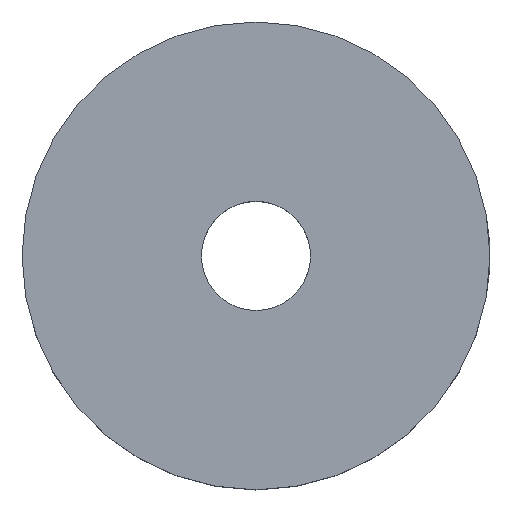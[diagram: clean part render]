
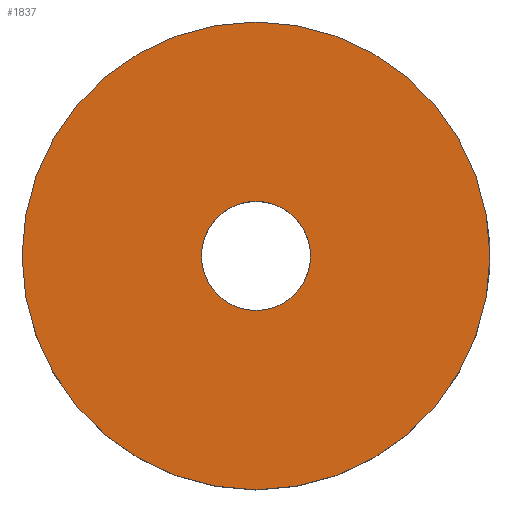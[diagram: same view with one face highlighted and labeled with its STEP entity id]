
A CAD part, top view. The second image highlights one B-rep face of the part: STEP entity #1837.
In plain terms, the highlighted planar face has unit normal (0, 0, 1).
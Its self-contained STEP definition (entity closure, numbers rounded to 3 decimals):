
#24 = VERTEX_POINT('',#25);
#25 = CARTESIAN_POINT('',(85.5,-116.913,90.));
#32 = CYLINDRICAL_SURFACE('',#33,18.);
#33 = AXIS2_PLACEMENT_3D('',#34,#35,#36);
#34 = CARTESIAN_POINT('',(67.5,-116.913,82.));
#35 = DIRECTION('',(0.,0.,1.));
#36 = DIRECTION('',(1.,0.,-0.));
#51 = EDGE_CURVE('',#24,#24,#52,.T.);
#52 = SURFACE_CURVE('',#53,(#58,#65),.PCURVE_S1.);
#53 = CIRCLE('',#54,18.);
#54 = AXIS2_PLACEMENT_3D('',#55,#56,#57);
#55 = CARTESIAN_POINT('',(67.5,-116.913,90.));
#56 = DIRECTION('',(0.,0.,1.));
#57 = DIRECTION('',(1.,0.,-0.));
#58 = PCURVE('',#32,#59);
#59 = DEFINITIONAL_REPRESENTATION('',(#60),#64);
#60 = LINE('',#61,#62);
#61 = CARTESIAN_POINT('',(0.,8.));
#62 = VECTOR('',#63,1.);
#63 = DIRECTION('',(1.,0.));
#64 = ( GEOMETRIC_REPRESENTATION_CONTEXT(2) 
PARAMETRIC_REPRESENTATION_CONTEXT() REPRESENTATION_CONTEXT('2D SPACE',''
  ) );
#65 = PCURVE('',#66,#71);
#66 = PLANE('',#67);
#67 = AXIS2_PLACEMENT_3D('',#68,#69,#70);
#68 = CARTESIAN_POINT('',(67.5,-116.913,90.));
#69 = DIRECTION('',(0.,0.,1.));
#70 = DIRECTION('',(1.,0.,-0.));
#71 = DEFINITIONAL_REPRESENTATION('',(#72),#76);
#72 = CIRCLE('',#73,18.);
#73 = AXIS2_PLACEMENT_2D('',#74,#75);
#74 = CARTESIAN_POINT('',(0.,0.));
#75 = DIRECTION('',(1.,0.));
#76 = ( GEOMETRIC_REPRESENTATION_CONTEXT(2) 
PARAMETRIC_REPRESENTATION_CONTEXT() REPRESENTATION_CONTEXT('2D SPACE',''
  ) );
#609 = CYLINDRICAL_SURFACE('',#610,4.2);
#610 = AXIS2_PLACEMENT_3D('',#611,#612,#613);
#611 = CARTESIAN_POINT('',(67.5,-116.913,81.));
#612 = DIRECTION('',(0.,0.,1.));
#613 = DIRECTION('',(1.,0.,-0.));
#1837 = ADVANCED_FACE('',(#1838,#1841),#66,.T.);
#1838 = FACE_BOUND('',#1839,.T.);
#1839 = EDGE_LOOP('',(#1840));
#1840 = ORIENTED_EDGE('',*,*,#51,.T.);
#1841 = FACE_BOUND('',#1842,.T.);
#1842 = EDGE_LOOP('',(#1843));
#1843 = ORIENTED_EDGE('',*,*,#1844,.F.);
#1844 = EDGE_CURVE('',#1845,#1845,#1847,.T.);
#1845 = VERTEX_POINT('',#1846);
#1846 = CARTESIAN_POINT('',(71.7,-116.913,90.));
#1847 = SURFACE_CURVE('',#1848,(#1853,#1860),.PCURVE_S1.);
#1848 = CIRCLE('',#1849,4.2);
#1849 = AXIS2_PLACEMENT_3D('',#1850,#1851,#1852);
#1850 = CARTESIAN_POINT('',(67.5,-116.913,90.));
#1851 = DIRECTION('',(0.,0.,1.));
#1852 = DIRECTION('',(1.,0.,-0.));
#1853 = PCURVE('',#66,#1854);
#1854 = DEFINITIONAL_REPRESENTATION('',(#1855),#1859);
#1855 = CIRCLE('',#1856,4.2);
#1856 = AXIS2_PLACEMENT_2D('',#1857,#1858);
#1857 = CARTESIAN_POINT('',(0.,0.));
#1858 = DIRECTION('',(1.,0.));
#1859 = ( GEOMETRIC_REPRESENTATION_CONTEXT(2) 
PARAMETRIC_REPRESENTATION_CONTEXT() REPRESENTATION_CONTEXT('2D SPACE',''
  ) );
#1860 = PCURVE('',#609,#1861);
#1861 = DEFINITIONAL_REPRESENTATION('',(#1862),#1866);
#1862 = LINE('',#1863,#1864);
#1863 = CARTESIAN_POINT('',(0.,9.));
#1864 = VECTOR('',#1865,1.);
#1865 = DIRECTION('',(1.,0.));
#1866 = ( GEOMETRIC_REPRESENTATION_CONTEXT(2) 
PARAMETRIC_REPRESENTATION_CONTEXT() REPRESENTATION_CONTEXT('2D SPACE',''
  ) );
